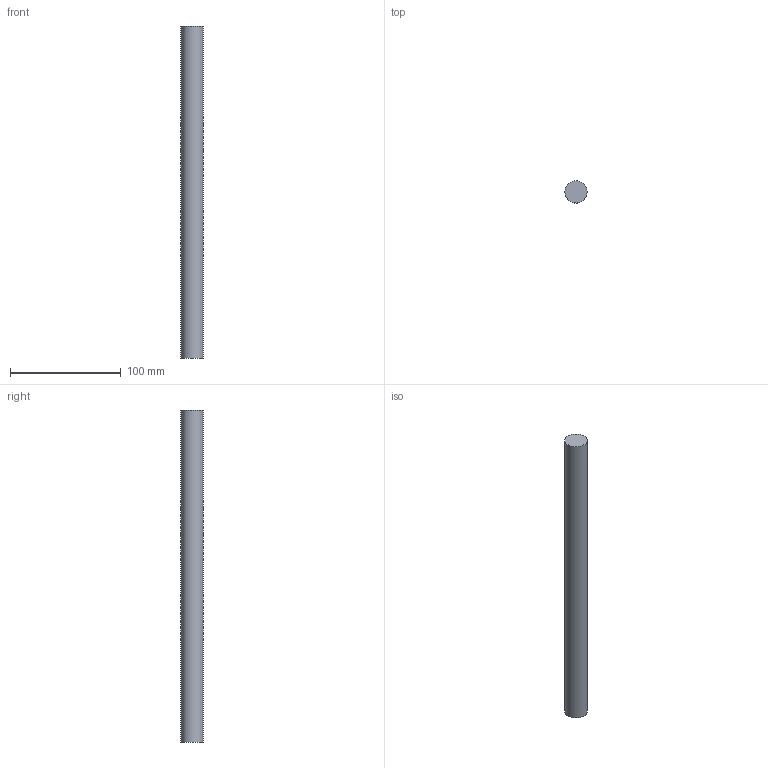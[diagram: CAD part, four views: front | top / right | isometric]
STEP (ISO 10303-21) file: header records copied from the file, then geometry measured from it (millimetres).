
FILE_DESCRIPTION(/* description */ (''),/* implementation_level */ '2;1');
FILE_NAME(/* name */ 'C:\Users\David\Desktop\stepFiles\Profilfuehrung\WF20x300.stp',/* time_stamp */ '2018-06-24T15:49:02+02:00',/* author */ ('David'),/* organization */ (''),/* preprocessor_version */ 'ST-DEVELOPER v17',/* originating_system */ 'Autodesk Inventor 2019',/* authorisation */ '');
FILE_SCHEMA (('AUTOMOTIVE_DESIGN { 1 0 10303 214 3 1 1 }'));
Length unit declared in the file: millimetre
Products named in the file (1): Wellenfuehrung
Bounding box: 20 x 20 x 300 mm (x, y, z)
Volume: 94247.8 mm3; surface area: 19477.9 mm2
Topology: 1 solids, 1 shells, 3 faces, 3 edges, 2 vertices
Faces by surface type: plane 2, cylinder 1
Full cylindrical faces by diameter (mm): 20 x1
Entity records: 98 total; most frequent: DIRECTION 13, CARTESIAN_POINT 9, ORIENTED_EDGE 6, AXIS2_PLACEMENT_3D 6, FACE_OUTER_BOUND 3, EDGE_LOOP 3, EDGE_CURVE 3, ADVANCED_FACE 3
